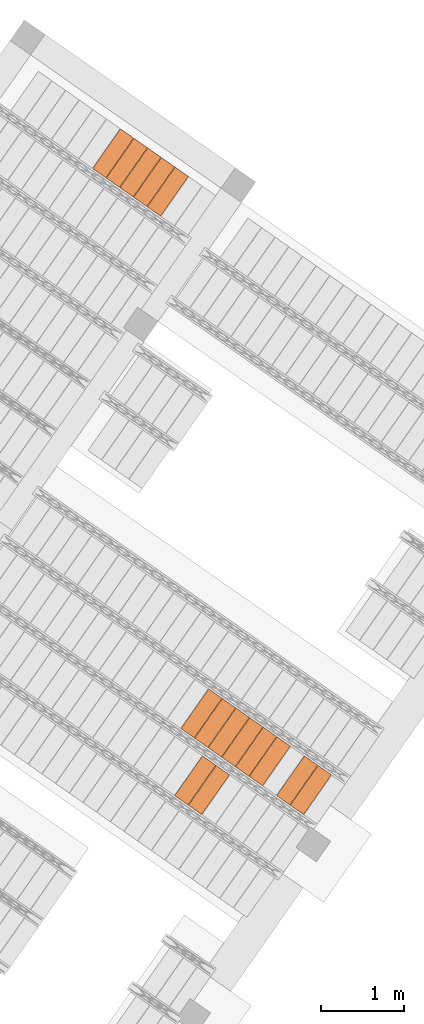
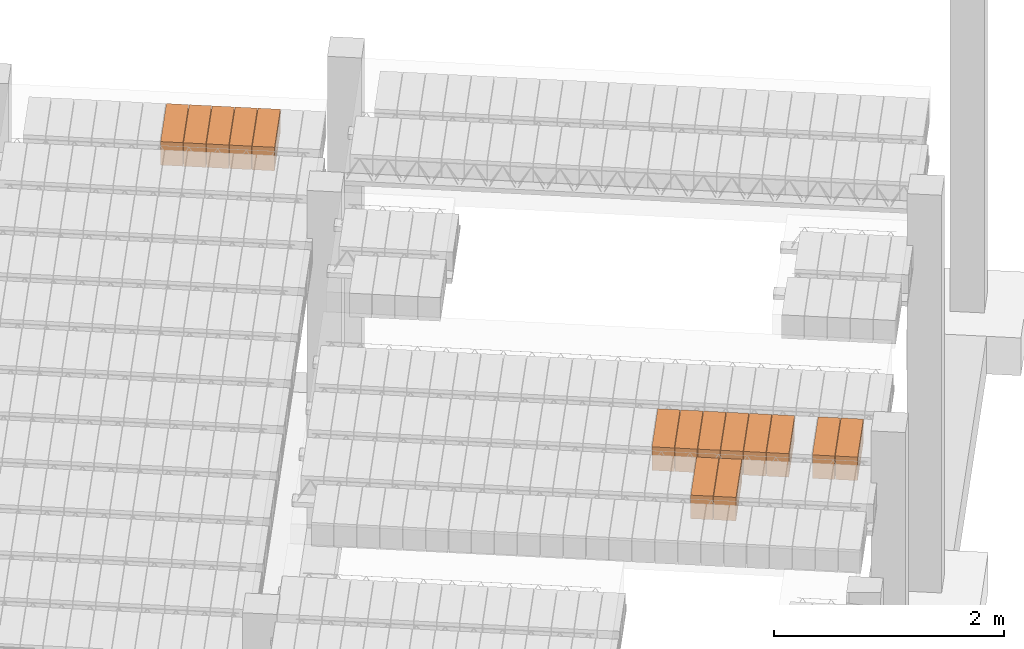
# One storey, part 74 of 80: 15 proxies.
"""IFC2X3 building model written with IfcOpenShell, lengths in metres."""

from ifc_helpers import new_model, entity, si_unit, converted_unit, derived_unit, direction, frame, origin, place, context, subcontext, project, spatial, polyline, outline, extrude, type_object, element, save


model = new_model("IFC2X3")

# Units and contexts
model_context = context("Model", 3, precision=1e-05, world=origin(), true_north=direction((6.123031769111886e-17, 1.0)))
body_context = subcontext(model_context, "Body", "Model", "MODEL_VIEW")
ifc_project = project(units=[si_unit("LENGTHUNIT", "METRE"), si_unit("AREAUNIT", "SQUARE_METRE"), si_unit("VOLUMEUNIT", "CUBIC_METRE"), converted_unit("PLANEANGLEUNIT", "DEGREE", entity("IfcPlaneAngleMeasure", 0.017453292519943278), si_unit("PLANEANGLEUNIT", "RADIAN"), dimensions=[0, 0, 0, 0, 0, 0, 0]), si_unit("MASSUNIT", "GRAM", prefix="KILO"), derived_unit("MASSDENSITYUNIT", [(si_unit("MASSUNIT", "GRAM", prefix="KILO"), 1), (si_unit("LENGTHUNIT", "METRE"), -3)]), derived_unit("IONCONCENTRATIONUNIT", [(si_unit("MASSUNIT", "GRAM", prefix="KILO"), 1), (si_unit("LENGTHUNIT", "METRE"), -3)]), derived_unit("MOMENTOFINERTIAUNIT", [(si_unit("LENGTHUNIT", "METRE"), 4)]), si_unit("TIMEUNIT", "SECOND"), si_unit("FREQUENCYUNIT", "HERTZ"), si_unit("THERMODYNAMICTEMPERATUREUNIT", "DEGREE_CELSIUS"), derived_unit("THERMALTRANSMITTANCEUNIT", [(si_unit("MASSUNIT", "GRAM", prefix="KILO"), 1), (si_unit("THERMODYNAMICTEMPERATUREUNIT", "KELVIN"), -1), (si_unit("TIMEUNIT", "SECOND"), -3)]), derived_unit("THERMALCONDUCTANCEUNIT", [(si_unit("MASSUNIT", "GRAM", prefix="KILO"), 1), (si_unit("THERMODYNAMICTEMPERATUREUNIT", "KELVIN"), -1), (si_unit("TIMEUNIT", "SECOND"), -3), (si_unit("LENGTHUNIT", "METRE"), 1)]), derived_unit("VOLUMETRICFLOWRATEUNIT", [(si_unit("LENGTHUNIT", "METRE", prefix="DECI"), 3), (si_unit("TIMEUNIT", "SECOND"), -1)]), derived_unit("MASSFLOWRATEUNIT", [(si_unit("MASSUNIT", "GRAM", prefix="KILO"), 1), (si_unit("TIMEUNIT", "SECOND"), -1)]), derived_unit("ROTATIONALFREQUENCYUNIT", [(si_unit("TIMEUNIT", "SECOND"), -1)]), si_unit("ELECTRICCURRENTUNIT", "AMPERE"), si_unit("ELECTRICVOLTAGEUNIT", "VOLT"), si_unit("POWERUNIT", "WATT"), si_unit("FORCEUNIT", "NEWTON", prefix="KILO"), si_unit("ILLUMINANCEUNIT", "LUX"), si_unit("LUMINOUSFLUXUNIT", "LUMEN"), si_unit("LUMINOUSINTENSITYUNIT", "CANDELA"), si_unit("ENERGYUNIT", "JOULE"), derived_unit("USERDEFINED", [(si_unit("MASSUNIT", "GRAM", prefix="KILO"), -1), (si_unit("LENGTHUNIT", "METRE"), -2), (si_unit("TIMEUNIT", "SECOND"), 3), (si_unit("LUMINOUSFLUXUNIT", "LUMEN"), 1)]), derived_unit("USERDEFINED", [(si_unit("MASSUNIT", "GRAM", prefix="KILO"), 1), (si_unit("TIMEUNIT", "SECOND"), -3), (si_unit("LENGTHUNIT", "METRE"), 3), (si_unit("ELECTRICCURRENTUNIT", "AMPERE"), -2)]), derived_unit("SOUNDPOWERUNIT", [(si_unit("MASSUNIT", "GRAM", prefix="KILO"), 1), (si_unit("TIMEUNIT", "SECOND"), -3), (si_unit("LENGTHUNIT", "METRE"), 2)]), derived_unit("SOUNDPRESSUREUNIT", [(si_unit("MASSUNIT", "GRAM", prefix="KILO"), 1), (si_unit("LENGTHUNIT", "METRE"), -1), (si_unit("TIMEUNIT", "SECOND"), -2)]), derived_unit("LINEARVELOCITYUNIT", [(si_unit("LENGTHUNIT", "METRE"), 1), (si_unit("TIMEUNIT", "SECOND"), -1)]), si_unit("PRESSUREUNIT", "PASCAL"), derived_unit("USERDEFINED", [(si_unit("MASSUNIT", "GRAM", prefix="KILO"), 1), (si_unit("LENGTHUNIT", "METRE"), -2), (si_unit("TIMEUNIT", "SECOND"), -2)]), derived_unit("LINEARFORCEUNIT", [(si_unit("MASSUNIT", "GRAM", prefix="KILO"), 1), (si_unit("TIMEUNIT", "SECOND"), -2)]), derived_unit("PLANARFORCEUNIT", [(si_unit("MASSUNIT", "GRAM", prefix="KILO"), 1), (si_unit("LENGTHUNIT", "METRE"), -1), (si_unit("TIMEUNIT", "SECOND"), -2)]), derived_unit("SPECIFICHEATCAPACITYUNIT", [(si_unit("THERMODYNAMICTEMPERATUREUNIT", "KELVIN"), -1), (si_unit("LENGTHUNIT", "METRE"), 2), (si_unit("TIMEUNIT", "SECOND"), -2)]), derived_unit("HEATFLUXDENSITYUNIT", [(si_unit("MASSUNIT", "GRAM", prefix="KILO"), 1), (si_unit("TIMEUNIT", "SECOND"), -3)]), derived_unit("HEATINGVALUEUNIT", [(si_unit("LENGTHUNIT", "METRE"), 2), (si_unit("TIMEUNIT", "SECOND"), -2)]), derived_unit("VAPORPERMEABILITYUNIT", [(si_unit("LENGTHUNIT", "METRE"), -1), (si_unit("TIMEUNIT", "SECOND"), 1)]), derived_unit("DYNAMICVISCOSITYUNIT", [(si_unit("MASSUNIT", "GRAM", prefix="KILO"), 1), (si_unit("TIMEUNIT", "SECOND"), -1), (si_unit("LENGTHUNIT", "METRE"), -1)]), derived_unit("THERMALEXPANSIONCOEFFICIENTUNIT", [(si_unit("THERMODYNAMICTEMPERATUREUNIT", "KELVIN"), -1)]), derived_unit("MODULUSOFELASTICITYUNIT", [(si_unit("MASSUNIT", "GRAM", prefix="KILO"), 1), (si_unit("LENGTHUNIT", "METRE"), -1), (si_unit("TIMEUNIT", "SECOND"), -2)]), derived_unit("ISOTHERMALMOISTURECAPACITYUNIT", [(si_unit("MASSUNIT", "GRAM", prefix="KILO"), -1), (si_unit("LENGTHUNIT", "METRE"), 3)]), derived_unit("MOISTUREDIFFUSIVITYUNIT", [(si_unit("TIMEUNIT", "SECOND"), -1), (si_unit("LENGTHUNIT", "METRE"), 2)]), derived_unit("MASSPERLENGTHUNIT", [(si_unit("MASSUNIT", "GRAM", prefix="KILO"), 1), (si_unit("LENGTHUNIT", "METRE"), -1)]), derived_unit("THERMALRESISTANCEUNIT", [(si_unit("MASSUNIT", "GRAM", prefix="KILO"), -1), (si_unit("TIMEUNIT", "SECOND"), 3), (si_unit("THERMODYNAMICTEMPERATUREUNIT", "KELVIN"), 1)]), derived_unit("ACCELERATIONUNIT", [(si_unit("LENGTHUNIT", "METRE"), 1), (si_unit("TIMEUNIT", "SECOND"), -2)]), derived_unit("ANGULARVELOCITYUNIT", [(si_unit("TIMEUNIT", "SECOND"), -1), (si_unit("PLANEANGLEUNIT", "RADIAN"), 1)]), derived_unit("LINEARSTIFFNESSUNIT", [(si_unit("MASSUNIT", "GRAM", prefix="KILO"), 1), (si_unit("TIMEUNIT", "SECOND"), -2)]), derived_unit("WARPINGCONSTANTUNIT", [(si_unit("LENGTHUNIT", "METRE"), 6)]), derived_unit("LINEARMOMENTUNIT", [(si_unit("MASSUNIT", "GRAM", prefix="KILO"), 1), (si_unit("LENGTHUNIT", "METRE"), 1), (si_unit("TIMEUNIT", "SECOND"), -2)]), derived_unit("TORQUEUNIT", [(si_unit("MASSUNIT", "GRAM", prefix="KILO"), 1), (si_unit("LENGTHUNIT", "METRE"), 2), (si_unit("TIMEUNIT", "SECOND"), -2)])], contexts=[model_context])

# Site, building, storey
site_placement = place(None, origin())
site = spatial("IfcSite", under=ifc_project, at=site_placement, Name="Default", CompositionType="ELEMENT")
building_placement = place(site_placement, origin())
building = spatial("IfcBuilding", under=site, at=building_placement, CompositionType="ELEMENT")
storey_placement = place(building_placement, frame((0.0, 0.0, 95.94)))
storey = spatial("IfcBuildingStorey", under=building, at=storey_placement, Name="PB", CompositionType="ELEMENT", Elevation=95.94)

# Proxies
building_element_proxy_type_1 = type_object("IfcBuildingElementProxyType", Name="Bovedilla 14-3 (Paño 2)", PredefinedType="USERDEFINED")
proxy_1_placement = place(storey_placement, origin())
element("IfcBuildingElementProxy", 1, at=proxy_1_placement, inside=storey, type_object=building_element_proxy_type_1, Name="Bovedilla 14-3 (Paño 2)", ObjectType="FORM", context=body_context, shape_type="SweptSolid", body=[
    extrude(outline(polyline([(-0.28999999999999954, -0.12500000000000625), (0.28999999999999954, -0.12500000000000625), (0.28999999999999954, 0.12500000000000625), (-0.28999999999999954, 0.12500000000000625), (-0.28999999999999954, -0.12500000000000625)]), holes=[polyline([(0.26999999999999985, -0.10499999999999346), (0.15500000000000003, -0.10499999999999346), (0.15500000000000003, 0.10499999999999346), (0.26999999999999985, 0.10499999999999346), (0.26999999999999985, 0.042499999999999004), (0.26999999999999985, -0.10499999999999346)]), polyline([(0.009999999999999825, -0.10499999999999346), (0.009999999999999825, 0.10499999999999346), (0.1350000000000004, 0.10499999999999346), (0.1350000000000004, -0.10499999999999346), (0.009999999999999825, -0.10499999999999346)]), polyline([(-0.1350000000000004, 0.10499999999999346), (-0.009999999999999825, 0.10499999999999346), (-0.009999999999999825, -0.10499999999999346), (-0.1350000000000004, -0.10499999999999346), (-0.1350000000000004, 0.10499999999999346)]), polyline([(-0.26999999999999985, -0.10499999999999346), (-0.26999999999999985, 0.042499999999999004), (-0.26999999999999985, 0.10499999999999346), (-0.15500000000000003, 0.10499999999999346), (-0.15500000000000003, -0.10499999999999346), (-0.26999999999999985, -0.10499999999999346)])]), frame((6.075041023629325, 9.175685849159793, 2.945000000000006), z_axis=(0.8191520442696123, -0.5735764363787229, 0.0), x_axis=(-0.5735764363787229, -0.8191520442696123, 0.0)), (0.0, 0.0, 1.0), 0.19499999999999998),
])
building_element_proxy_type_2 = type_object("IfcBuildingElementProxyType", Name="Bovedilla 14-4 (Paño 2)", PredefinedType="USERDEFINED")
proxy_2_placement = place(storey_placement, origin())
element("IfcBuildingElementProxy", 2, at=proxy_2_placement, inside=storey, type_object=building_element_proxy_type_2, Name="Bovedilla 14-4 (Paño 2)", ObjectType="FORM", context=body_context, shape_type="SweptSolid", body=[
    extrude(outline(polyline([(-0.28999999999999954, -0.12500000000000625), (0.28999999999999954, -0.12500000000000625), (0.28999999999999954, 0.12500000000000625), (-0.28999999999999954, 0.12500000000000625), (-0.28999999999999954, -0.12500000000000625)]), holes=[polyline([(0.26999999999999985, -0.10499999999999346), (0.15500000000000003, -0.10499999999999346), (0.15500000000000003, 0.10499999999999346), (0.26999999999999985, 0.10499999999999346), (0.26999999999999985, 0.042499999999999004), (0.26999999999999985, -0.10499999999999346)]), polyline([(0.009999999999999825, -0.10499999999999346), (0.009999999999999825, 0.10499999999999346), (0.1350000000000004, 0.10499999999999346), (0.1350000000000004, -0.10499999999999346), (0.009999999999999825, -0.10499999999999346)]), polyline([(-0.1350000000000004, 0.10499999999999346), (-0.009999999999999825, 0.10499999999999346), (-0.009999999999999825, -0.10499999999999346), (-0.1350000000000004, -0.10499999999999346), (-0.1350000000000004, 0.10499999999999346)]), polyline([(-0.26999999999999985, -0.10499999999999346), (-0.26999999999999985, 0.042499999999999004), (-0.26999999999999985, 0.10499999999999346), (-0.15500000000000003, 0.10499999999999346), (-0.15500000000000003, -0.10499999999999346), (-0.26999999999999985, -0.10499999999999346)])]), frame((5.9112106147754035, 9.290401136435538, 2.945000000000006), z_axis=(0.8191520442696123, -0.5735764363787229, 0.0), x_axis=(-0.5735764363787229, -0.8191520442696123, 0.0)), (0.0, 0.0, 1.0), 0.19499999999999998),
])
building_element_proxy_type_3 = type_object("IfcBuildingElementProxyType", Name="Bovedilla 14-5 (Paño 2)", PredefinedType="USERDEFINED")
proxy_3_placement = place(storey_placement, origin())
element("IfcBuildingElementProxy", 3, at=proxy_3_placement, inside=storey, type_object=building_element_proxy_type_3, Name="Bovedilla 14-5 (Paño 2)", ObjectType="FORM", context=body_context, shape_type="SweptSolid", body=[
    extrude(outline(polyline([(-0.28999999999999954, -0.12500000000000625), (0.28999999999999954, -0.12500000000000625), (0.28999999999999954, 0.12500000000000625), (-0.28999999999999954, 0.12500000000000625), (-0.28999999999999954, -0.12500000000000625)]), holes=[polyline([(0.26999999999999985, -0.10499999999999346), (0.15500000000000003, -0.10499999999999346), (0.15500000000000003, 0.10499999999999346), (0.26999999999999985, 0.10499999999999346), (0.26999999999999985, 0.042499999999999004), (0.26999999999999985, -0.10499999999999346)]), polyline([(0.009999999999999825, -0.10499999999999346), (0.009999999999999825, 0.10499999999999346), (0.1350000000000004, 0.10499999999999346), (0.1350000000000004, -0.10499999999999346), (0.009999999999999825, -0.10499999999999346)]), polyline([(-0.1350000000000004, 0.10499999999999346), (-0.009999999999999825, 0.10499999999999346), (-0.009999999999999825, -0.10499999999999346), (-0.1350000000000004, -0.10499999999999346), (-0.1350000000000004, 0.10499999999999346)]), polyline([(-0.26999999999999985, -0.10499999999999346), (-0.26999999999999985, 0.042499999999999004), (-0.26999999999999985, 0.10499999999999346), (-0.15500000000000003, 0.10499999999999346), (-0.15500000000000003, -0.10499999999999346), (-0.26999999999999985, -0.10499999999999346)])]), frame((5.747380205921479, 9.405116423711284, 2.945000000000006), z_axis=(0.8191520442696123, -0.5735764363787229, 0.0), x_axis=(-0.5735764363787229, -0.8191520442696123, 0.0)), (0.0, 0.0, 1.0), 0.19499999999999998),
])
building_element_proxy_type_4 = type_object("IfcBuildingElementProxyType", Name="Bovedilla 14-6 (Paño 2)", PredefinedType="USERDEFINED")
proxy_4_placement = place(storey_placement, origin())
element("IfcBuildingElementProxy", 4, at=proxy_4_placement, inside=storey, type_object=building_element_proxy_type_4, Name="Bovedilla 14-6 (Paño 2)", ObjectType="FORM", context=body_context, shape_type="SweptSolid", body=[
    extrude(outline(polyline([(-0.2900000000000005, -0.12500000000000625), (0.28999999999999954, -0.12500000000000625), (0.28999999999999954, 0.12500000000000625), (-0.2900000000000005, 0.12500000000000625), (-0.2900000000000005, -0.12500000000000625)]), holes=[polyline([(0.26999999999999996, -0.10499999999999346), (0.15500000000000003, -0.10499999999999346), (0.15500000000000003, 0.10499999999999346), (0.26999999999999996, 0.10499999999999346), (0.26999999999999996, 0.042499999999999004), (0.26999999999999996, -0.10499999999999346)]), polyline([(0.009999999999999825, -0.10499999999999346), (0.009999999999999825, 0.10499999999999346), (0.1350000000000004, 0.10499999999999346), (0.1350000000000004, -0.10499999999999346), (0.009999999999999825, -0.10499999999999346)]), polyline([(-0.1350000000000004, 0.10499999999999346), (-0.009999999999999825, 0.10499999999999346), (-0.009999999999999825, -0.10499999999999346), (-0.1350000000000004, -0.10499999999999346), (-0.1350000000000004, 0.10499999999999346)]), polyline([(-0.26999999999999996, -0.10499999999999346), (-0.26999999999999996, 0.042499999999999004), (-0.26999999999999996, 0.10499999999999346), (-0.15500000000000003, 0.10499999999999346), (-0.15500000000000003, -0.10499999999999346), (-0.26999999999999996, -0.10499999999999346)])]), frame((5.583549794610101, 9.519831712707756, 2.945000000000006), z_axis=(0.819152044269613, -0.5735764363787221, 0.0), x_axis=(-0.5735764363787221, -0.819152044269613, 0.0)), (0.0, 0.0, 1.0), 0.19499999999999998),
])
building_element_proxy_type_5 = type_object("IfcBuildingElementProxyType", Name="Bovedilla 14-7 (Paño 2)", PredefinedType="USERDEFINED")
proxy_5_placement = place(storey_placement, origin())
element("IfcBuildingElementProxy", 5, at=proxy_5_placement, inside=storey, type_object=building_element_proxy_type_5, Name="Bovedilla 14-7 (Paño 2)", ObjectType="FORM", context=body_context, shape_type="SweptSolid", body=[
    extrude(outline(polyline([(-0.2900000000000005, -0.12500000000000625), (0.28999999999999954, -0.12500000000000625), (0.28999999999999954, 0.12500000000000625), (-0.2900000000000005, 0.12500000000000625), (-0.2900000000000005, -0.12500000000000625)]), holes=[polyline([(0.26999999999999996, -0.10499999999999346), (0.15500000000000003, -0.10499999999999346), (0.15500000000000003, 0.10499999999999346), (0.26999999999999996, 0.10499999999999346), (0.26999999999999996, 0.042499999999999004), (0.26999999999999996, -0.10499999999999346)]), polyline([(0.009999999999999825, -0.10499999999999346), (0.009999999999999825, 0.10499999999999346), (0.1350000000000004, 0.10499999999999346), (0.1350000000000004, -0.10499999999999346), (0.009999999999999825, -0.10499999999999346)]), polyline([(-0.1350000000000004, 0.10499999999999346), (-0.009999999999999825, 0.10499999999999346), (-0.009999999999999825, -0.10499999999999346), (-0.1350000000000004, -0.10499999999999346), (-0.1350000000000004, 0.10499999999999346)]), polyline([(-0.2700000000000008, -0.10499999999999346), (-0.2700000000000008, 0.042499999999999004), (-0.2700000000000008, 0.10499999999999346), (-0.15499999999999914, 0.10499999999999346), (-0.15499999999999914, -0.10499999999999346), (-0.2700000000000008, -0.10499999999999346)])]), frame((5.4197193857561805, 9.6345469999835, 2.945000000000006), z_axis=(0.819152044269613, -0.5735764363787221, 0.0), x_axis=(-0.5735764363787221, -0.819152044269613, 0.0)), (0.0, 0.0, 1.0), 0.19499999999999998),
])
building_element_proxy_type_6 = type_object("IfcBuildingElementProxyType", Name="Bovedilla 1-7 (Paño 6)", PredefinedType="USERDEFINED")
proxy_6_placement = place(storey_placement, origin())
element("IfcBuildingElementProxy", 6, at=proxy_6_placement, inside=storey, type_object=building_element_proxy_type_6, Name="Bovedilla 1-7 (Paño 6)", ObjectType="FORM", context=body_context, shape_type="SweptSolid", body=[
    extrude(outline(polyline([(-0.29, -0.12500000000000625), (0.29, -0.12500000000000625), (0.29, 0.12500000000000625), (-0.29, 0.12500000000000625), (-0.29, -0.12500000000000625)]), holes=[polyline([(0.27000000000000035, -0.10499999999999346), (0.15499999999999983, -0.10499999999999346), (0.15499999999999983, 0.10499999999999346), (0.27000000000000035, 0.10499999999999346), (0.27000000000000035, 0.042499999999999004), (0.27000000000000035, -0.10499999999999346)]), polyline([(0.009999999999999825, -0.10499999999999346), (0.009999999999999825, 0.10499999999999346), (0.13500000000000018, 0.10499999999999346), (0.13500000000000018, -0.10499999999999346), (0.009999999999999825, -0.10499999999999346)]), polyline([(-0.13500000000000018, 0.10499999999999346), (-0.009999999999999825, 0.10499999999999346), (-0.009999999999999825, -0.10499999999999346), (-0.13500000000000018, -0.10499999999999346), (-0.13500000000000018, 0.10499999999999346)]), polyline([(-0.27000000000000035, -0.10499999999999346), (-0.27000000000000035, 0.042499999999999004), (-0.27000000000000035, 0.10499999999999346), (-0.15499999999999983, 0.10499999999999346), (-0.15499999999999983, -0.10499999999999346), (-0.27000000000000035, -0.10499999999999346)])]), frame((6.567387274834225, 2.0062009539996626, 3.4050000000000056), z_axis=(0.819152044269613, -0.5735764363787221, 0.0), x_axis=(-0.5735764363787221, -0.819152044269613, 0.0)), (0.0, 0.0, 1.0), 0.19499999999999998),
])
building_element_proxy_type_7 = type_object("IfcBuildingElementProxyType", Name="Bovedilla 1-8 (Paño 6)", PredefinedType="USERDEFINED")
proxy_7_placement = place(storey_placement, origin())
element("IfcBuildingElementProxy", 7, at=proxy_7_placement, inside=storey, type_object=building_element_proxy_type_7, Name="Bovedilla 1-8 (Paño 6)", ObjectType="FORM", context=body_context, shape_type="SweptSolid", body=[
    extrude(outline(polyline([(-0.29, -0.12500000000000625), (0.29, -0.12500000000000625), (0.29, 0.12500000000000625), (-0.29, 0.12500000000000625), (-0.29, -0.12500000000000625)]), holes=[polyline([(0.27000000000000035, -0.10499999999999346), (0.15499999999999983, -0.10499999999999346), (0.15499999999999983, 0.10499999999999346), (0.27000000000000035, 0.10499999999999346), (0.27000000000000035, 0.042499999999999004), (0.27000000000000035, -0.10499999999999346)]), polyline([(0.009999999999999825, -0.10499999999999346), (0.009999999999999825, 0.10499999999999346), (0.13500000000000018, 0.10499999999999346), (0.13500000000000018, -0.10499999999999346), (0.009999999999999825, -0.10499999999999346)]), polyline([(-0.13500000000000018, 0.10499999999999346), (-0.009999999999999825, 0.10499999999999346), (-0.009999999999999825, -0.10499999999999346), (-0.13500000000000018, -0.10499999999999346), (-0.13500000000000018, 0.10499999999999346)]), polyline([(-0.27000000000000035, -0.10499999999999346), (-0.27000000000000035, 0.042499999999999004), (-0.27000000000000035, 0.10499999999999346), (-0.15499999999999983, 0.10499999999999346), (-0.15499999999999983, -0.10499999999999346), (-0.27000000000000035, -0.10499999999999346)])]), frame((6.4035568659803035, 2.1209162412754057, 3.4050000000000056), z_axis=(0.819152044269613, -0.5735764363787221, 0.0), x_axis=(-0.5735764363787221, -0.819152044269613, 0.0)), (0.0, 0.0, 1.0), 0.19499999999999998),
])
building_element_proxy_type_8 = type_object("IfcBuildingElementProxyType", Name="Bovedilla 2-2 (Paño 6)", PredefinedType="USERDEFINED")
proxy_8_placement = place(storey_placement, origin())
element("IfcBuildingElementProxy", 8, at=proxy_8_placement, inside=storey, type_object=building_element_proxy_type_8, Name="Bovedilla 2-2 (Paño 6)", ObjectType="FORM", context=body_context, shape_type="SweptSolid", body=[
    extrude(outline(polyline([(-0.29, -0.12500000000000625), (0.29, -0.12500000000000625), (0.29, 0.12500000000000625), (-0.29, 0.12500000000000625), (-0.29, -0.12500000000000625)]), holes=[polyline([(0.27000000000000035, -0.10499999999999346), (0.15499999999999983, -0.10499999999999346), (0.15499999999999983, 0.10499999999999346), (0.27000000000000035, 0.10499999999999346), (0.27000000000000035, 0.042499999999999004), (0.27000000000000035, -0.10499999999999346)]), polyline([(0.009999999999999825, -0.10499999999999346), (0.009999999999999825, 0.10499999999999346), (0.13500000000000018, 0.10499999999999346), (0.13500000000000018, -0.10499999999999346), (0.009999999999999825, -0.10499999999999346)]), polyline([(-0.13500000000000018, 0.10499999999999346), (-0.009999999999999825, 0.10499999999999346), (-0.009999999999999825, -0.10499999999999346), (-0.13500000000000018, -0.10499999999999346), (-0.13500000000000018, 0.10499999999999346)]), polyline([(-0.27000000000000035, -0.10499999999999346), (-0.27000000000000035, 0.042499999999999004), (-0.27000000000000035, 0.10499999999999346), (-0.15499999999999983, 0.10499999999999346), (-0.15499999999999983, -0.10499999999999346), (-0.27000000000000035, -0.10499999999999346)])]), frame((7.788042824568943, 2.0060309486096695, 3.4050000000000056), z_axis=(0.819152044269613, -0.5735764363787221, 0.0), x_axis=(-0.5735764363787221, -0.819152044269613, 0.0)), (0.0, 0.0, 1.0), 0.19499999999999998),
])
building_element_proxy_type_9 = type_object("IfcBuildingElementProxyType", Name="Bovedilla 2-3 (Paño 6)", PredefinedType="USERDEFINED")
proxy_9_placement = place(storey_placement, origin())
element("IfcBuildingElementProxy", 9, at=proxy_9_placement, inside=storey, type_object=building_element_proxy_type_9, Name="Bovedilla 2-3 (Paño 6)", ObjectType="FORM", context=body_context, shape_type="SweptSolid", body=[
    extrude(outline(polyline([(-0.29, -0.12500000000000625), (0.29, -0.12500000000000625), (0.29, 0.12500000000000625), (-0.29, 0.12500000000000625), (-0.29, -0.12500000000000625)]), holes=[polyline([(0.27000000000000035, -0.10499999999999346), (0.15499999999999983, -0.10499999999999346), (0.15499999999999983, 0.10499999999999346), (0.27000000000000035, 0.10499999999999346), (0.27000000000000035, 0.042499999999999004), (0.27000000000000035, -0.10499999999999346)]), polyline([(0.009999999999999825, -0.10499999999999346), (0.009999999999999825, 0.10499999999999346), (0.13500000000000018, 0.10499999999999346), (0.13500000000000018, -0.10499999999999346), (0.009999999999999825, -0.10499999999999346)]), polyline([(-0.13500000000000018, 0.10499999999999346), (-0.009999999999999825, 0.10499999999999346), (-0.009999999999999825, -0.10499999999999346), (-0.13500000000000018, -0.10499999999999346), (-0.13500000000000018, 0.10499999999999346)]), polyline([(-0.27000000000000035, -0.10499999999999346), (-0.27000000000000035, 0.042499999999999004), (-0.27000000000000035, 0.10499999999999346), (-0.15499999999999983, 0.10499999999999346), (-0.15499999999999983, -0.10499999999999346), (-0.27000000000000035, -0.10499999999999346)])]), frame((7.6242124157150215, 2.120746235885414, 3.4050000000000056), z_axis=(0.819152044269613, -0.5735764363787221, 0.0), x_axis=(-0.5735764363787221, -0.819152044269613, 0.0)), (0.0, 0.0, 1.0), 0.19499999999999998),
])
building_element_proxy_type_10 = type_object("IfcBuildingElementProxyType", Name="Bovedilla 2-5 (Paño 6)", PredefinedType="USERDEFINED")
proxy_10_placement = place(storey_placement, origin())
element("IfcBuildingElementProxy", 10, at=proxy_10_placement, inside=storey, type_object=building_element_proxy_type_10, Name="Bovedilla 2-5 (Paño 6)", ObjectType="FORM", context=body_context, shape_type="SweptSolid", body=[
    extrude(outline(polyline([(-0.29, -0.12500000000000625), (0.2899999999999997, -0.12500000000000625), (0.2899999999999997, 0.12500000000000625), (-0.29, 0.12500000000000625), (-0.29, -0.12500000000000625)]), holes=[polyline([(0.27000000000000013, -0.10499999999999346), (0.1549999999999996, -0.10499999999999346), (0.1549999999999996, 0.10499999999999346), (0.27000000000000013, 0.10499999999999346), (0.27000000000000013, 0.042499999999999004), (0.27000000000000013, -0.10499999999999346)]), polyline([(0.009999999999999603, -0.10499999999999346), (0.009999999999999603, 0.10499999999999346), (0.13500000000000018, 0.10499999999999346), (0.13500000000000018, -0.10499999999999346), (0.009999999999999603, -0.10499999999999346)]), polyline([(-0.13500000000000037, 0.10499999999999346), (-0.009999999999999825, 0.10499999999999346), (-0.009999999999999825, -0.10499999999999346), (-0.13500000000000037, -0.10499999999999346), (-0.13500000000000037, 0.10499999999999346)]), polyline([(-0.27000000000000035, -0.10499999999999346), (-0.27000000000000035, 0.042499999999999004), (-0.27000000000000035, 0.10499999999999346), (-0.15500000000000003, 0.10499999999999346), (-0.15500000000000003, -0.10499999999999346), (-0.27000000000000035, -0.10499999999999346)])]), frame((7.296551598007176, 2.350176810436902, 3.4050000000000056), z_axis=(0.8191520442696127, -0.5735764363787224, 0.0), x_axis=(-0.5735764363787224, -0.8191520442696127, 0.0)), (0.0, 0.0, 1.0), 0.19499999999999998),
])
building_element_proxy_type_11 = type_object("IfcBuildingElementProxyType", Name="Bovedilla 2-6 (Paño 6)", PredefinedType="USERDEFINED")
proxy_11_placement = place(storey_placement, origin())
element("IfcBuildingElementProxy", 11, at=proxy_11_placement, inside=storey, type_object=building_element_proxy_type_11, Name="Bovedilla 2-6 (Paño 6)", ObjectType="FORM", context=body_context, shape_type="SweptSolid", body=[
    extrude(outline(polyline([(-0.29, -0.12500000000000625), (0.29, -0.12500000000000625), (0.29, 0.12500000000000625), (-0.29, 0.12500000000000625), (-0.29, -0.12500000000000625)]), holes=[polyline([(0.2700000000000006, -0.10499999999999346), (0.15499999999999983, -0.10499999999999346), (0.15499999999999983, 0.10499999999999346), (0.2700000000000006, 0.10499999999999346), (0.2700000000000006, 0.042499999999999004), (0.2700000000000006, -0.10499999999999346)]), polyline([(0.009999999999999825, -0.10499999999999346), (0.009999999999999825, 0.10499999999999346), (0.13500000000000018, 0.10499999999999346), (0.13500000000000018, -0.10499999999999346), (0.009999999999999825, -0.10499999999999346)]), polyline([(-0.13499999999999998, 0.10499999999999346), (-0.009999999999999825, 0.10499999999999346), (-0.009999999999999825, -0.10499999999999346), (-0.13499999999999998, -0.10499999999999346), (-0.13499999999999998, 0.10499999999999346)]), polyline([(-0.27000000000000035, -0.10499999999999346), (-0.27000000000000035, 0.042499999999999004), (-0.27000000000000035, 0.10499999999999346), (-0.15500000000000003, 0.10499999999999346), (-0.15500000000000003, -0.10499999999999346), (-0.27000000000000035, -0.10499999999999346)])]), frame((7.132721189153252, 2.4648920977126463, 3.4050000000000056), z_axis=(0.819152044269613, -0.5735764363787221, 0.0), x_axis=(-0.5735764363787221, -0.819152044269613, 0.0)), (0.0, 0.0, 1.0), 0.19499999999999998),
])
building_element_proxy_type_12 = type_object("IfcBuildingElementProxyType", Name="Bovedilla 2-7 (Paño 6)", PredefinedType="USERDEFINED")
proxy_12_placement = place(storey_placement, origin())
element("IfcBuildingElementProxy", 12, at=proxy_12_placement, inside=storey, type_object=building_element_proxy_type_12, Name="Bovedilla 2-7 (Paño 6)", ObjectType="FORM", context=body_context, shape_type="SweptSolid", body=[
    extrude(outline(polyline([(-0.29, -0.12500000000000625), (0.29, -0.12500000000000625), (0.29, 0.12500000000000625), (-0.29, 0.12500000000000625), (-0.29, -0.12500000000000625)]), holes=[polyline([(0.2700000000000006, -0.10499999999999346), (0.15500000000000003, -0.10499999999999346), (0.15500000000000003, 0.10499999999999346), (0.2700000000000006, 0.10499999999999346), (0.2700000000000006, 0.042499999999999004), (0.2700000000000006, -0.10499999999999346)]), polyline([(0.009999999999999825, -0.10499999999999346), (0.009999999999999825, 0.10499999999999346), (0.13499999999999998, 0.10499999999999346), (0.13499999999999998, -0.10499999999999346), (0.009999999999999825, -0.10499999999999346)]), polyline([(-0.13499999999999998, 0.10499999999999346), (-0.009999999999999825, 0.10499999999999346), (-0.009999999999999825, -0.10499999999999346), (-0.13499999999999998, -0.10499999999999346), (-0.13499999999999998, 0.10499999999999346)]), polyline([(-0.27000000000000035, -0.10499999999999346), (-0.27000000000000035, 0.042499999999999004), (-0.27000000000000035, 0.10499999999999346), (-0.15500000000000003, 0.10499999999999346), (-0.15500000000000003, -0.10499999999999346), (-0.27000000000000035, -0.10499999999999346)])]), frame((6.968890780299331, 2.5796073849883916, 3.4050000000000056), z_axis=(0.819152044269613, -0.5735764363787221, 0.0), x_axis=(-0.5735764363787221, -0.819152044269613, 0.0)), (0.0, 0.0, 1.0), 0.19499999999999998),
])
building_element_proxy_type_13 = type_object("IfcBuildingElementProxyType", Name="Bovedilla 2-8 (Paño 6)", PredefinedType="USERDEFINED")
proxy_13_placement = place(storey_placement, origin())
element("IfcBuildingElementProxy", 13, at=proxy_13_placement, inside=storey, type_object=building_element_proxy_type_13, Name="Bovedilla 2-8 (Paño 6)", ObjectType="FORM", context=body_context, shape_type="SweptSolid", body=[
    extrude(outline(polyline([(-0.29, -0.12500000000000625), (0.29, -0.12500000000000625), (0.29, 0.12500000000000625), (-0.29, 0.12500000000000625), (-0.29, -0.12500000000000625)]), holes=[polyline([(0.27000000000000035, -0.10499999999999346), (0.15500000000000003, -0.10499999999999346), (0.15500000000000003, 0.10499999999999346), (0.27000000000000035, 0.10499999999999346), (0.27000000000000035, 0.042499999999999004), (0.27000000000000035, -0.10499999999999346)]), polyline([(0.009999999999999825, -0.10499999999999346), (0.009999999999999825, 0.10499999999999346), (0.13499999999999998, 0.10499999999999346), (0.13499999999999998, -0.10499999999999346), (0.009999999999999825, -0.10499999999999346)]), polyline([(-0.13499999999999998, 0.10499999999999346), (-0.009999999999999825, 0.10499999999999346), (-0.009999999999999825, -0.10499999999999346), (-0.13499999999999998, -0.10499999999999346), (-0.13499999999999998, 0.10499999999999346)]), polyline([(-0.27000000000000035, -0.10499999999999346), (-0.27000000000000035, 0.042499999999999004), (-0.27000000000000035, 0.10499999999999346), (-0.15500000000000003, 0.10499999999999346), (-0.15500000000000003, -0.10499999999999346), (-0.27000000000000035, -0.10499999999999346)])]), frame((6.80506037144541, 2.6943226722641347, 3.4050000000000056), z_axis=(0.819152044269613, -0.5735764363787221, 0.0), x_axis=(-0.5735764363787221, -0.819152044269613, 0.0)), (0.0, 0.0, 1.0), 0.19499999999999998),
])
building_element_proxy_type_14 = type_object("IfcBuildingElementProxyType", Name="Bovedilla 2-9 (Paño 6)", PredefinedType="USERDEFINED")
proxy_14_placement = place(storey_placement, origin())
element("IfcBuildingElementProxy", 14, at=proxy_14_placement, inside=storey, type_object=building_element_proxy_type_14, Name="Bovedilla 2-9 (Paño 6)", ObjectType="FORM", context=body_context, shape_type="SweptSolid", body=[
    extrude(outline(polyline([(-0.29, -0.12500000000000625), (0.29, -0.12500000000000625), (0.29, 0.12500000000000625), (-0.29, 0.12500000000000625), (-0.29, -0.12500000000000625)]), holes=[polyline([(0.27000000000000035, -0.10499999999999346), (0.15500000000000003, -0.10499999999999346), (0.15500000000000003, 0.10499999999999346), (0.27000000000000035, 0.10499999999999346), (0.27000000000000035, 0.042499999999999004), (0.27000000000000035, -0.10499999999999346)]), polyline([(0.009999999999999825, -0.10499999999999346), (0.009999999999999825, 0.10499999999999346), (0.13499999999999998, 0.10499999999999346), (0.13499999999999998, -0.10499999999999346), (0.009999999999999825, -0.10499999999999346)]), polyline([(-0.13499999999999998, 0.10499999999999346), (-0.009999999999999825, 0.10499999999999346), (-0.009999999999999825, -0.10499999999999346), (-0.13499999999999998, -0.10499999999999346), (-0.13499999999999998, 0.10499999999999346)]), polyline([(-0.27000000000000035, -0.10499999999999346), (-0.27000000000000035, 0.042499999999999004), (-0.27000000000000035, 0.10499999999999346), (-0.15500000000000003, 0.10499999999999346), (-0.15500000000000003, -0.10499999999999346), (-0.27000000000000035, -0.10499999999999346)])]), frame((6.641229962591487, 2.8090379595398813, 3.4050000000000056), z_axis=(0.819152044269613, -0.5735764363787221, 0.0), x_axis=(-0.5735764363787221, -0.819152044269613, 0.0)), (0.0, 0.0, 1.0), 0.19499999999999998),
])
building_element_proxy_type_15 = type_object("IfcBuildingElementProxyType", Name="Bovedilla 2-10 (Paño 6)", PredefinedType="USERDEFINED")
proxy_15_placement = place(storey_placement, origin())
element("IfcBuildingElementProxy", 15, at=proxy_15_placement, inside=storey, type_object=building_element_proxy_type_15, Name="Bovedilla 2-10 (Paño 6)", ObjectType="FORM", context=body_context, shape_type="SweptSolid", body=[
    extrude(outline(polyline([(-0.29, -0.12500000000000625), (0.29, -0.12500000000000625), (0.29, 0.12500000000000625), (-0.29, 0.12500000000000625), (-0.29, -0.12500000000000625)]), holes=[polyline([(0.27000000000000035, -0.10499999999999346), (0.15500000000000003, -0.10499999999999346), (0.15500000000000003, 0.10499999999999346), (0.27000000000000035, 0.10499999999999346), (0.27000000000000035, 0.042499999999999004), (0.27000000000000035, -0.10499999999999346)]), polyline([(0.009999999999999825, -0.10499999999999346), (0.009999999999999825, 0.10499999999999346), (0.13499999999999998, 0.10499999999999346), (0.13499999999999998, -0.10499999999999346), (0.009999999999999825, -0.10499999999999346)]), polyline([(-0.13499999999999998, 0.10499999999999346), (-0.009999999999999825, 0.10499999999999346), (-0.009999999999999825, -0.10499999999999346), (-0.13499999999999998, -0.10499999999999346), (-0.13499999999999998, 0.10499999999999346)]), polyline([(-0.27000000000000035, -0.10499999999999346), (-0.27000000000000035, 0.042499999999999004), (-0.27000000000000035, 0.10499999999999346), (-0.15500000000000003, 0.10499999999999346), (-0.15500000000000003, -0.10499999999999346), (-0.27000000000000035, -0.10499999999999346)])]), frame((6.477399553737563, 2.9237532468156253, 3.4050000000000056), z_axis=(0.819152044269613, -0.5735764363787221, 0.0), x_axis=(-0.5735764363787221, -0.819152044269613, 0.0)), (0.0, 0.0, 1.0), 0.19499999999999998),
])

save(model, "model.ifc")
